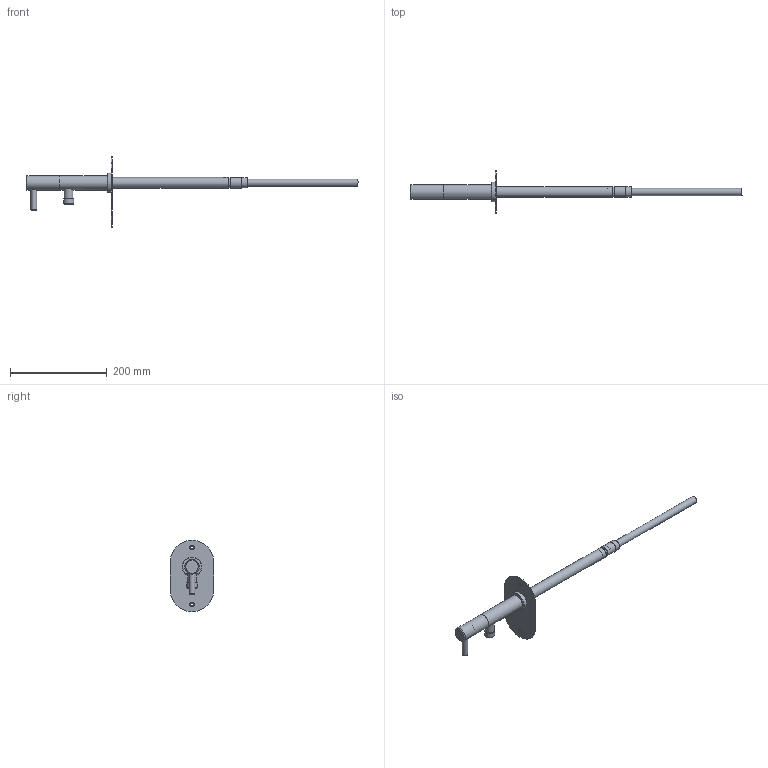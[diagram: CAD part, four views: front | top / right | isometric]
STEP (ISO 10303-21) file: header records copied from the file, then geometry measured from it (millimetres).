
FILE_DESCRIPTION(/* description */ ('Wall lang (F740)'),/* implementation_level */ '2;1');
FILE_NAME(/* name */ 'Wk 00201 (F740).stp',/* time_stamp */ '2022-12-15T13:56:48+01:00',/* author */ ('thomas'),/* organization */ (''),/* preprocessor_version */ 'ST-DEVELOPER v19.2',/* originating_system */ 'Autodesk Inventor 2023',/* authorisation */ '');
FILE_SCHEMA (('AUTOMOTIVE_DESIGN { 1 0 10303 214 3 1 1 }'));
Length unit declared in the file: millimetre
Products named in the file (16): Wk 00201; Wf 00101; Wf 00102; Wf 00104; Wf 00103; Wf 00105; Pinolskrue M6x10mm; WL 00117-2; Wf 00117; WL 00107-2; Pinolskrue M4x5mm; Wf 00118; Wf 00109-1; Wf 00109; Wf 00110-1; Wf 00110
Assembly tree (15 placements, depth 4):
  Wk 00201
    Wf 00101
    Wf 00102
      Wf 00104
      Wf 00103
    Wf 00105
    Pinolskrue M6x10mm
    WL 00117-2
    Wf 00117
    WL 00107-2
    Pinolskrue M4x5mm
    Wf 00118
      Wf 00109-1
        Wf 00109
      Wf 00110-1
        Wf 00110
Bounding box: 686 x 90 x 148 mm (x, y, z)
Volume: 109653.1 mm3; surface area: 131744.1 mm2
Topology: 11 solids, 11 shells, 153 faces, 329 edges, 213 vertices
Faces by surface type: plane 82, cylinder 50, cone 19, torus 2
Full cylindrical faces by diameter (mm): 4 x1, 4.134 x1, 4.917 x2, 5.513 x1, 6 x1, 12 x3, 13 x2, 14 x1, 14.6 x1, 15 x2, 16.662 x1, 17 x1, 18 x1, 18.2 x1, 19 x2, 20 x2, 20.5 x1, 20.955 x2, 22 x2, 27 x2, 30 x2, 30.4 x1, 34.8 x1, 35 x1, 40 x1
Entity records: 5138 total; most frequent: CARTESIAN_POINT 1048, DIRECTION 817, ORIENTED_EDGE 656, AXIS2_PLACEMENT_3D 338, EDGE_CURVE 328, VERTEX_POINT 213, EDGE_LOOP 195, FACE_OUTER_BOUND 153
